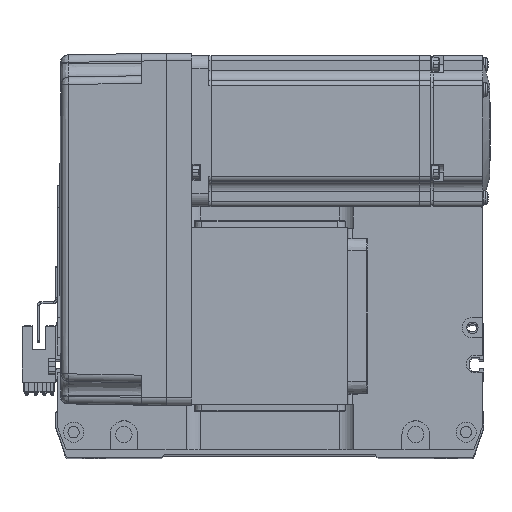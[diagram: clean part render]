
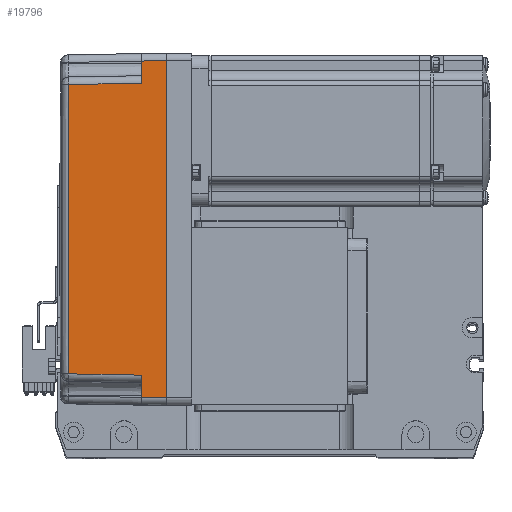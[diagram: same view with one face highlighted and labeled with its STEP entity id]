
A CAD part, top view. The second image highlights one B-rep face of the part: STEP entity #19796.
In plain terms, the highlighted planar face has unit normal (-0.018, 0, 1) as drawn and (0, 1, 0.017) by its records, which use the part's own axes.
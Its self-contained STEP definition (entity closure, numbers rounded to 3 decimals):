
#614 = ORIENTED_EDGE ( 'NONE', *, *, #40917, .F. ) ;
#845 = VERTEX_POINT ( 'NONE', #13444 ) ;
#1468 = LINE ( 'NONE', #7409, #57851 ) ;
#1643 = VECTOR ( 'NONE', #46605, 1000. ) ;
#2419 = AXIS2_PLACEMENT_3D ( 'NONE', #59558, #36606, #13048 ) ;
#2558 = LINE ( 'NONE', #45655, #44310 ) ;
#3002 = ORIENTED_EDGE ( 'NONE', *, *, #52142, .T. ) ;
#5172 = VECTOR ( 'NONE', #6540, 1000. ) ;
#5691 = DIRECTION ( 'NONE',  ( 1., 0., 0. ) ) ;
#6131 = EDGE_LOOP ( 'NONE', ( #30800, #34818, #52128, #11309, #32212, #3002, #614, #34089 ) ) ;
#6540 = DIRECTION ( 'NONE',  ( 1., 0., 0. ) ) ;
#7409 = CARTESIAN_POINT ( 'NONE',  ( 57.495, 35.32, 38.985 ) ) ;
#8248 = CARTESIAN_POINT ( 'NONE',  ( -57.495, 35.32, 38.985 ) ) ;
#8610 = CARTESIAN_POINT ( 'NONE',  ( 58., 35.825, 10. ) ) ;
#9688 = VERTEX_POINT ( 'NONE', #45812 ) ;
#11147 = FACE_OUTER_BOUND ( 'NONE', #6131, .T. ) ;
#11309 = ORIENTED_EDGE ( 'NONE', *, *, #22597, .T. ) ;
#11907 = DIRECTION ( 'NONE',  ( 0.017, 0.017, -1. ) ) ;
#11981 = VERTEX_POINT ( 'NONE', #33944 ) ;
#13048 = DIRECTION ( 'NONE',  ( 0., -0.017, 1. ) ) ;
#13444 = CARTESIAN_POINT ( 'NONE',  ( 66.826, 35.825, 10. ) ) ;
#14052 = VECTOR ( 'NONE', #45751, 1000. ) ;
#15902 = LINE ( 'NONE', #33708, #53242 ) ;
#17754 = LINE ( 'NONE', #51101, #1643 ) ;
#18413 = VERTEX_POINT ( 'NONE', #42615 ) ;
#19796 = ADVANCED_FACE ( 'NONE', ( #11147 ), #44412, .T. ) ;
#20349 = CARTESIAN_POINT ( 'NONE',  ( 67., 36., 0. ) ) ;
#21150 = CARTESIAN_POINT ( 'NONE',  ( 57.495, 35.32, 38.985 ) ) ;
#22081 = EDGE_CURVE ( 'NONE', #18413, #11981, #15902, .T. ) ;
#22597 = EDGE_CURVE ( 'NONE', #9688, #51328, #38952, .T. ) ;
#23984 = EDGE_CURVE ( 'NONE', #40772, #18413, #17754, .T. ) ;
#25561 = CARTESIAN_POINT ( 'NONE',  ( 0., 36., 0. ) ) ;
#29032 = CARTESIAN_POINT ( 'NONE',  ( 57.495, 35.32, 38.985 ) ) ;
#30344 = VECTOR ( 'NONE', #56449, 1000. ) ;
#30800 = ORIENTED_EDGE ( 'NONE', *, *, #23984, .T. ) ;
#32212 = ORIENTED_EDGE ( 'NONE', *, *, #33149, .T. ) ;
#33149 = EDGE_CURVE ( 'NONE', #51328, #43427, #1468, .T. ) ;
#33708 = CARTESIAN_POINT ( 'NONE',  ( 70., 35.825, 10. ) ) ;
#33944 = CARTESIAN_POINT ( 'NONE',  ( -58., 35.825, 10. ) ) ;
#34089 = ORIENTED_EDGE ( 'NONE', *, *, #41033, .F. ) ;
#34818 = ORIENTED_EDGE ( 'NONE', *, *, #22081, .T. ) ;
#35234 = CARTESIAN_POINT ( 'NONE',  ( -19.165, 35.316, 39.181 ) ) ;
#35930 = LINE ( 'NONE', #25561, #5172 ) ;
#36606 = DIRECTION ( 'NONE',  ( 0., 1., 0.017 ) ) ;
#38943 = LINE ( 'NONE', #59501, #14052 ) ;
#38952 = B_SPLINE_CURVE_WITH_KNOTS ( 'NONE', 3,
 ( #8248, #35234, #53486, #21150 ),
 .UNSPECIFIED., .F., .F.,
 ( 4, 4 ),
 ( 0., 1. ),
 .UNSPECIFIED. ) ;
#40772 = VERTEX_POINT ( 'NONE', #57600 ) ;
#40917 = EDGE_CURVE ( 'NONE', #41956, #845, #38943, .T. ) ;
#41033 = EDGE_CURVE ( 'NONE', #40772, #41956, #35930, .T. ) ;
#41140 = DIRECTION ( 'NONE',  ( 0.017, -0.017, 1. ) ) ;
#41956 = VERTEX_POINT ( 'NONE', #20349 ) ;
#42615 = CARTESIAN_POINT ( 'NONE',  ( -66.826, 35.825, 10. ) ) ;
#43427 = VERTEX_POINT ( 'NONE', #8610 ) ;
#44310 = VECTOR ( 'NONE', #41140, 1000. ) ;
#44412 = PLANE ( 'NONE',  #2419 ) ;
#44513 = EDGE_CURVE ( 'NONE', #11981, #9688, #2558, .T. ) ;
#45655 = CARTESIAN_POINT ( 'NONE',  ( -58., 35.825, 10. ) ) ;
#45751 = DIRECTION ( 'NONE',  ( -0.017, -0.017, 1. ) ) ;
#45812 = CARTESIAN_POINT ( 'NONE',  ( -57.495, 35.32, 38.985 ) ) ;
#46605 = DIRECTION ( 'NONE',  ( 0.017, -0.017, 1. ) ) ;
#51101 = CARTESIAN_POINT ( 'NONE',  ( -67., 36., 0. ) ) ;
#51328 = VERTEX_POINT ( 'NONE', #29032 ) ;
#52128 = ORIENTED_EDGE ( 'NONE', *, *, #44513, .T. ) ;
#52142 = EDGE_CURVE ( 'NONE', #43427, #845, #52332, .T. ) ;
#52332 = LINE ( 'NONE', #56262, #30344 ) ;
#53242 = VECTOR ( 'NONE', #5691, 1000. ) ;
#53486 = CARTESIAN_POINT ( 'NONE',  ( 19.165, 35.316, 39.181 ) ) ;
#56262 = CARTESIAN_POINT ( 'NONE',  ( 70., 35.825, 10. ) ) ;
#56449 = DIRECTION ( 'NONE',  ( 1., 0., 0. ) ) ;
#57600 = CARTESIAN_POINT ( 'NONE',  ( -67., 36., 0. ) ) ;
#57851 = VECTOR ( 'NONE', #11907, 1000. ) ;
#59501 = CARTESIAN_POINT ( 'NONE',  ( 67.001, 36.001, -0.052 ) ) ;
#59558 = CARTESIAN_POINT ( 'NONE',  ( 70., 36., 0. ) ) ;
